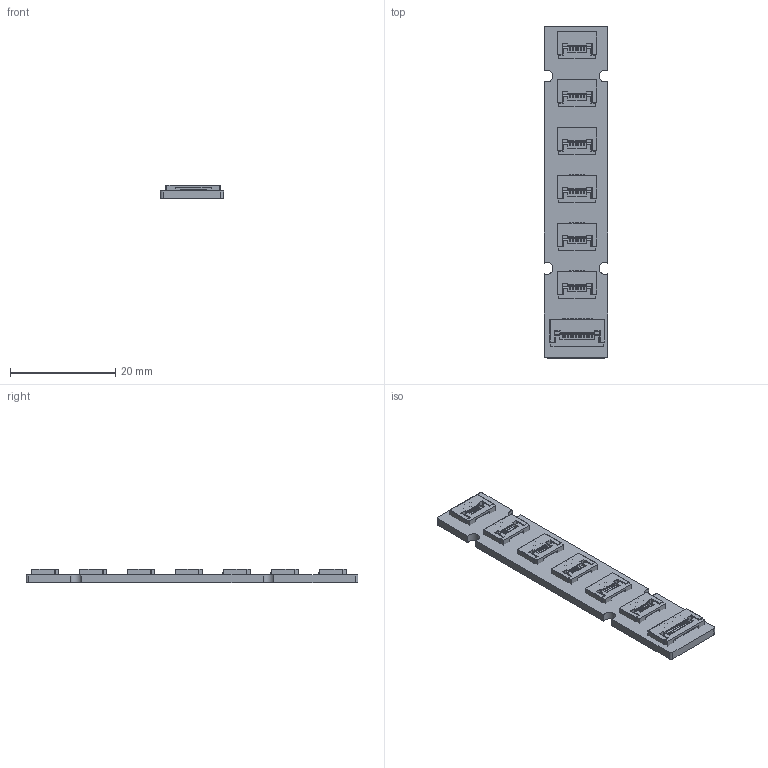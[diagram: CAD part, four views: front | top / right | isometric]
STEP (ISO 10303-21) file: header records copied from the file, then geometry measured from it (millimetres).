
FILE_DESCRIPTION(('KiCad electronic assembly'),'2;1');
FILE_NAME('columnBreakout.step','2026-10-03T09:47:38',('Pcbnew'),( 'Kicad'),'Open CASCADE STEP processor 7.9','KiCad to STEP converter' ,'Unknown');
FILE_SCHEMA(('AUTOMOTIVE_DESIGN { 1 0 10303 214 1 1 1 1 }'));
Length unit declared in the file: millimetre
Products named in the file (4): columnBreakout 1; FPC-SMD_6P-P0.50_HC-FPC-0.5-6P-FH20; FPC-SMD_12P-P0.50_HC-FPC-0.5-12P-FH20; columnBreakout_PCB
Assembly tree (8 placements, depth 2):
  columnBreakout 1
    FPC-SMD_6P-P0.50_HC-FPC-0.5-6P-FH20  x6
    FPC-SMD_12P-P0.50_HC-FPC-0.5-12P-FH20
    columnBreakout_PCB
Bounding box: 12 x 63 x 2.6 mm (x, y, z)
Volume: 1480.6 mm3; surface area: 3909.1 mm2
Topology: 77 solids, 77 shells, 4202 faces, 11825 edges, 7800 vertices
Faces by surface type: plane 3024, bspline 686, cylinder 492
Entity records: 54666 total; most frequent: CARTESIAN_POINT 10505, ORIENTED_EDGE 7760, DIRECTION 6130, EDGE_CURVE 3880, LINE 3152, VECTOR 3152, VERTEX_POINT 2560, AXIS2_PLACEMENT_3D 1489
